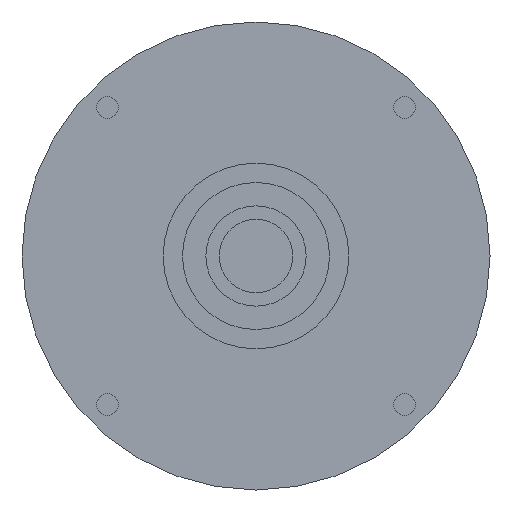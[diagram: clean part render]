
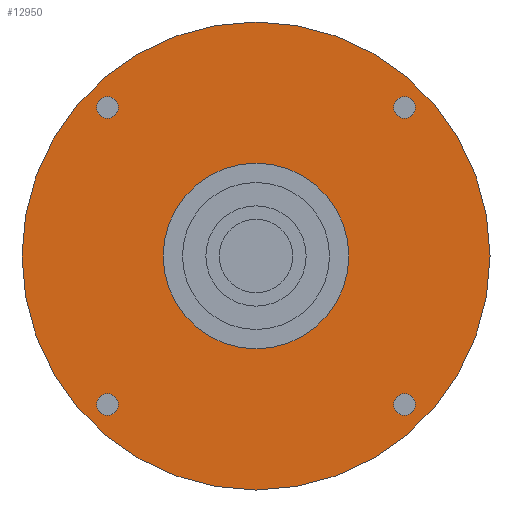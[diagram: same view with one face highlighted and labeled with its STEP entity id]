
A CAD part, left-side view. The second image highlights one B-rep face of the part: STEP entity #12950.
In plain terms, the highlighted planar face has unit normal (-1, 0, 0) as drawn and (0, 0, -1) by its records, which use the part's own axes.
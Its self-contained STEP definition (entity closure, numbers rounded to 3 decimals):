
#11830=CARTESIAN_POINT('',(-70.,0.,-59.701));
#11840=VERTEX_POINT('',#11830);
#11870=CARTESIAN_POINT('',(0.,0.,
-59.701));
#11880=DIRECTION('',(0.,0.,-1.));
#11890=DIRECTION('',(0.,-1.,0.));
#11900=AXIS2_PLACEMENT_3D('',#11870,#11880,#11890);
#11910=CIRCLE('',#11900,70.);
#11920=CARTESIAN_POINT('',(70.,0.,-59.701));
#11930=VERTEX_POINT('',#11920);
#11940=EDGE_CURVE('',#11840,#11930,#11910,.T.);
#12060=CARTESIAN_POINT('',(0.,0.,
-59.701));
#12070=DIRECTION('',(0.,0.,-1.));
#12080=DIRECTION('',(1.,0.,0.));
#12090=AXIS2_PLACEMENT_3D('',#12060,#12070,#12080);
#12100=PLANE('',#12090);
#12110=CARTESIAN_POINT('',(44.449,44.449,-59.701));
#12120=DIRECTION('',(0.,0.,-1.));
#12130=DIRECTION('',(0.,1.,0.));
#12140=AXIS2_PLACEMENT_3D('',#12110,#12120,#12130);
#12150=CIRCLE('',#12140,3.25);
#12160=CARTESIAN_POINT('',(44.449,47.699,-59.701));
#12170=VERTEX_POINT('',#12160);
#12180=CARTESIAN_POINT('',(44.449,41.199,-59.701));
#12190=VERTEX_POINT('',#12180);
#12200=EDGE_CURVE('',#12170,#12190,#12150,.T.);
#12210=ORIENTED_EDGE('',*,*,#12200,.F.);
#12220=EDGE_CURVE('',#12190,#12170,#12150,.T.);
#12230=ORIENTED_EDGE('',*,*,#12220,.F.);
#12240=EDGE_LOOP('',(#12230,#12210));
#12250=FACE_BOUND('',#12240,.T.);
#12260=CARTESIAN_POINT('',(-44.449,44.449,-59.701));
#12270=DIRECTION('',(0.,0.,-1.));
#12280=DIRECTION('',(-1.,0.,0.));
#12290=AXIS2_PLACEMENT_3D('',#12260,#12270,#12280);
#12300=CIRCLE('',#12290,3.25);
#12310=CARTESIAN_POINT('',(-47.699,44.449,-59.701));
#12320=VERTEX_POINT('',#12310);
#12330=CARTESIAN_POINT('',(-41.199,44.449,-59.701));
#12340=VERTEX_POINT('',#12330);
#12350=EDGE_CURVE('',#12320,#12340,#12300,.T.);
#12360=ORIENTED_EDGE('',*,*,#12350,.F.);
#12370=EDGE_CURVE('',#12340,#12320,#12300,.T.);
#12380=ORIENTED_EDGE('',*,*,#12370,.F.);
#12390=EDGE_LOOP('',(#12380,#12360));
#12400=FACE_BOUND('',#12390,.T.);
#12410=CARTESIAN_POINT('',(-44.449,-44.449,-59.701))
;
#12420=DIRECTION('',(0.,0.,-1.));
#12430=DIRECTION('',(0.,-1.,0.));
#12440=AXIS2_PLACEMENT_3D('',#12410,#12420,#12430);
#12450=CIRCLE('',#12440,3.25);
#12460=CARTESIAN_POINT('',(-44.449,-47.699,-59.701))
;
#12470=VERTEX_POINT('',#12460);
#12480=CARTESIAN_POINT('',(-44.449,-41.199,-59.701))
;
#12490=VERTEX_POINT('',#12480);
#12500=EDGE_CURVE('',#12470,#12490,#12450,.T.);
#12510=ORIENTED_EDGE('',*,*,#12500,.F.);
#12520=EDGE_CURVE('',#12490,#12470,#12450,.T.);
#12530=ORIENTED_EDGE('',*,*,#12520,.F.);
#12540=EDGE_LOOP('',(#12530,#12510));
#12550=FACE_BOUND('',#12540,.T.);
#12560=CARTESIAN_POINT('',(0.,0.,
-59.701));
#12570=DIRECTION('',(0.,0.,-1.));
#12580=DIRECTION('',(0.,1.,0.));
#12590=AXIS2_PLACEMENT_3D('',#12560,#12570,#12580);
#12600=CIRCLE('',#12590,27.76);
#12610=CARTESIAN_POINT('',(0.,27.76,-59.701));
#12620=VERTEX_POINT('',#12610);
#12630=CARTESIAN_POINT('',(0.,-27.76,-59.701));
#12640=VERTEX_POINT('',#12630);
#12650=EDGE_CURVE('',#12620,#12640,#12600,.T.);
#12660=ORIENTED_EDGE('',*,*,#12650,.F.);
#12670=EDGE_CURVE('',#12640,#12620,#12600,.T.);
#12680=ORIENTED_EDGE('',*,*,#12670,.F.);
#12690=EDGE_LOOP('',(#12680,#12660));
#12700=FACE_BOUND('',#12690,.T.);
#12710=CARTESIAN_POINT('',(44.449,-44.449,-59.701));
#12720=DIRECTION('',(0.,0.,-1.));
#12730=DIRECTION('',(1.,0.,0.));
#12740=AXIS2_PLACEMENT_3D('',#12710,#12720,#12730);
#12750=CIRCLE('',#12740,3.25);
#12760=CARTESIAN_POINT('',(47.699,-44.449,-59.701));
#12770=VERTEX_POINT('',#12760);
#12780=CARTESIAN_POINT('',(41.199,-44.449,-59.701));
#12790=VERTEX_POINT('',#12780);
#12800=EDGE_CURVE('',#12770,#12790,#12750,.T.);
#12810=ORIENTED_EDGE('',*,*,#12800,.F.);
#12820=EDGE_CURVE('',#12790,#12770,#12750,.T.);
#12830=ORIENTED_EDGE('',*,*,#12820,.F.);
#12840=EDGE_LOOP('',(#12830,#12810));
#12850=FACE_BOUND('',#12840,.T.);
#12860=ORIENTED_EDGE('',*,*,#11940,.T.);
#12870=CARTESIAN_POINT('',(0.,-70.,-59.701));
#12880=VERTEX_POINT('',#12870);
#12890=EDGE_CURVE('',#12880,#11840,#11910,.T.);
#12900=ORIENTED_EDGE('',*,*,#12890,.T.);
#12910=EDGE_CURVE('',#11930,#12880,#11910,.T.);
#12920=ORIENTED_EDGE('',*,*,#12910,.T.);
#12930=EDGE_LOOP('',(#12920,#12900,#12860));
#12940=FACE_OUTER_BOUND('',#12930,.T.);
#12950=ADVANCED_FACE('',(#12250,#12400,#12550,#12700,#12850,#12940),
#12100,.T.);
